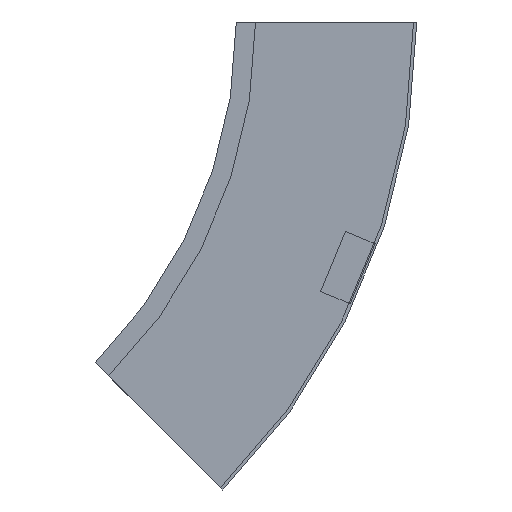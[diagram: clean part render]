
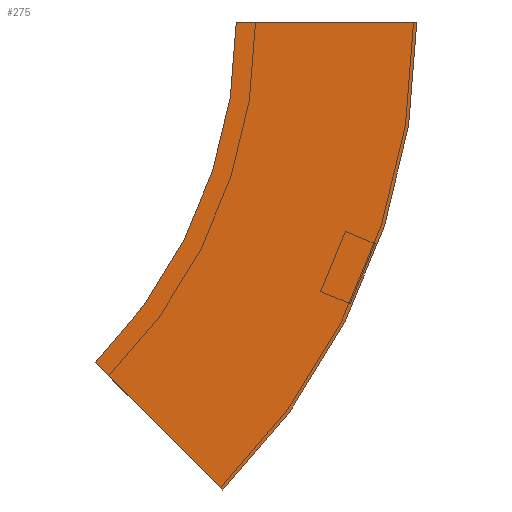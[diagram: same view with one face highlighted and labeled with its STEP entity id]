
A CAD part, left-side view. The second image highlights one B-rep face of the part: STEP entity #275.
In plain terms, the highlighted planar face has unit normal (-1, 0, 0) as drawn and (1, 0, 0) by its records, which use the part's own axes.
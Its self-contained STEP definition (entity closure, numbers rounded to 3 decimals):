
#7 = CARTESIAN_POINT ( 'NONE',  ( 0., -112.5, 0. ) ) ;
#11 = DIRECTION ( 'NONE',  ( -1., 0., 0. ) ) ;
#29 = AXIS2_PLACEMENT_3D ( 'NONE', #541, #11, #542 ) ;
#32 = CARTESIAN_POINT ( 'NONE',  ( 0., -112.5, 0. ) ) ;
#43 = CARTESIAN_POINT ( 'NONE',  ( 0., 0., 0. ) ) ;
#53 = FACE_OUTER_BOUND ( 'NONE', #122, .T. ) ;
#64 = EDGE_CURVE ( 'NONE', #485, #443, #550, .T. ) ;
#80 = EDGE_CURVE ( 'NONE', #443, #318, #221, .T. ) ;
#97 = CARTESIAN_POINT ( 'NONE',  ( 0., 8.318, -291.682 ) ) ;
#108 = ORIENTED_EDGE ( 'NONE', *, *, #64, .F. ) ;
#114 = DIRECTION ( 'NONE',  ( 0., -1., 0. ) ) ;
#120 = CARTESIAN_POINT ( 'NONE',  ( 0., 8.318, -291.682 ) ) ;
#122 = EDGE_LOOP ( 'NONE', ( #556, #108, #408, #536 ) ) ;
#135 = DIRECTION ( 'NONE',  ( 0., 0.707, 0.707 ) ) ;
#146 = EDGE_CURVE ( 'NONE', #485, #316, #427, .T. ) ;
#149 = PLANE ( 'NONE',  #29 ) ;
#186 = CARTESIAN_POINT ( 'NONE',  ( 0., 87.868, -212.132 ) ) ;
#216 = DIRECTION ( 'NONE',  ( 0., -1., 0. ) ) ;
#221 = CIRCLE ( 'NONE', #320, 300. ) ;
#275 = ADVANCED_FACE ( 'NONE', ( #53 ), #149, .F. ) ;
#289 = DIRECTION ( 'NONE',  ( 1., 0., 0. ) ) ;
#306 = DIRECTION ( 'NONE',  ( 1., 0., 0. ) ) ;
#316 = VERTEX_POINT ( 'NONE', #97 ) ;
#318 = VERTEX_POINT ( 'NONE', #186 ) ;
#320 = AXIS2_PLACEMENT_3D ( 'NONE', #330, #289, #114 ) ;
#330 = CARTESIAN_POINT ( 'NONE',  ( 0., 300., 0. ) ) ;
#346 = CARTESIAN_POINT ( 'NONE',  ( 0., 300., 0. ) ) ;
#408 = ORIENTED_EDGE ( 'NONE', *, *, #146, .T. ) ;
#427 = CIRCLE ( 'NONE', #482, 412.5 ) ;
#435 = VECTOR ( 'NONE', #554, 1000. ) ;
#443 = VERTEX_POINT ( 'NONE', #43 ) ;
#482 = AXIS2_PLACEMENT_3D ( 'NONE', #346, #306, #216 ) ;
#485 = VERTEX_POINT ( 'NONE', #7 ) ;
#511 = VECTOR ( 'NONE', #135, 1000. ) ;
#516 = EDGE_CURVE ( 'NONE', #316, #318, #555, .T. ) ;
#536 = ORIENTED_EDGE ( 'NONE', *, *, #516, .T. ) ;
#541 = CARTESIAN_POINT ( 'NONE',  ( 0., -112.5, 0. ) ) ;
#542 = DIRECTION ( 'NONE',  ( 0., 0., 1. ) ) ;
#550 = LINE ( 'NONE', #32, #435 ) ;
#554 = DIRECTION ( 'NONE',  ( 0., 1., 0. ) ) ;
#555 = LINE ( 'NONE', #120, #511 ) ;
#556 = ORIENTED_EDGE ( 'NONE', *, *, #80, .F. ) ;
